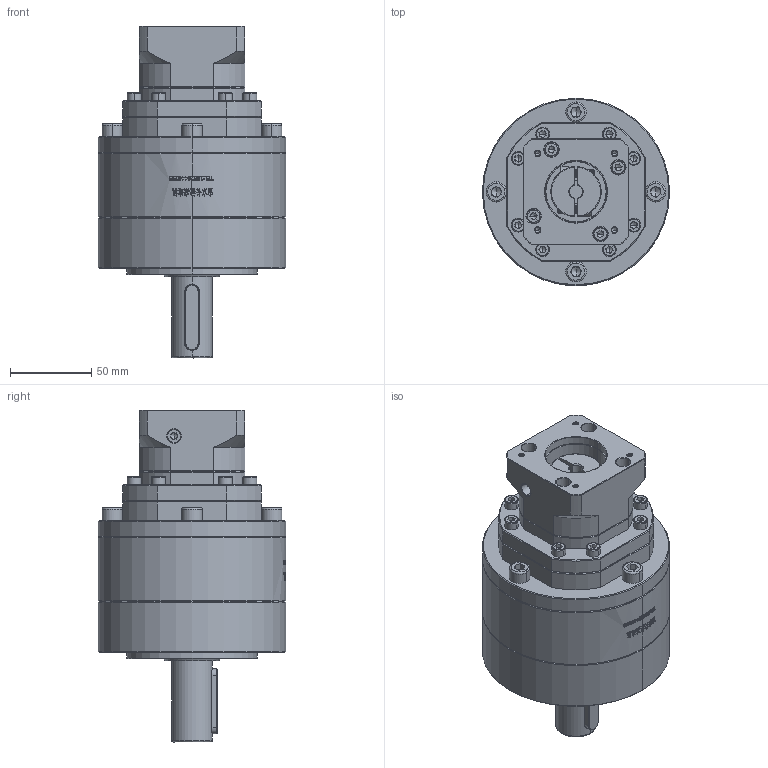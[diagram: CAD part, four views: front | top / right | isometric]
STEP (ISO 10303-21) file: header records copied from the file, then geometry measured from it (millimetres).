
FILE_DESCRIPTION (( 'STEP AP214' ), '1' );
FILE_NAME ('ZE120A-D25-L3-8-38.1-47.14X47.14-M4.step', '2023-03-09T15:33:51', ( '' ), ( 'Microsoft' ), 'SwSTEP 2.0', 'SolidWorks 2016', '' );
FILE_SCHEMA (( 'AUTOMOTIVE_DESIGN' ));
Length unit declared in the file: millimetre
Products named in the file (1): ZE120A-D25-L3-8-38.1-47.14X47.14-M4
Bounding box: 115 x 115 x 204 mm (x, y, z)
Volume: 1155840.9 mm3; surface area: 110536 mm2
Topology: 7 solids, 7 shells, 2157 faces, 5707 edges, 3652 vertices
Faces by surface type: plane 981, cylinder 509, bspline 349, cone 296, torus 22
Entity records: 118268 total; most frequent: CARTESIAN_POINT 45643, ORIENTED_EDGE 11290, DIRECTION 8686, EDGE_CURVE 5645, VERTEX_POINT 3652, VECTOR 3016, LINE 3016, AXIS2_PLACEMENT_3D 2835
